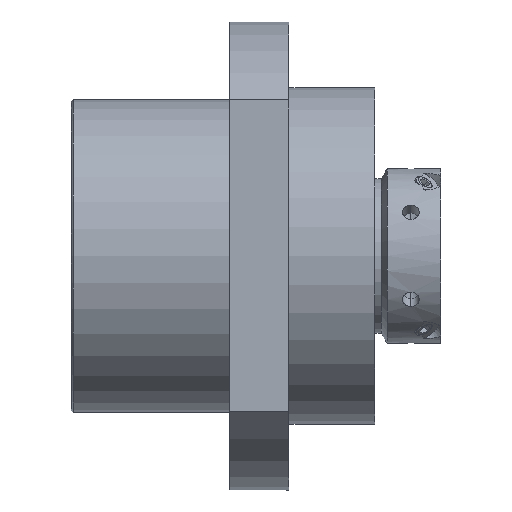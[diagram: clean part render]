
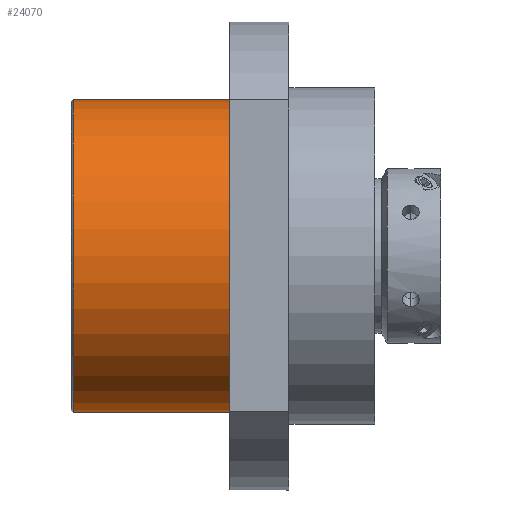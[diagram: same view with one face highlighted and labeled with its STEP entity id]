
A CAD part, top view. The second image highlights one B-rep face of the part: STEP entity #24070.
In plain terms, the highlighted cylindrical face has radius 47.5 mm (diameter 95 mm), a partial arc.
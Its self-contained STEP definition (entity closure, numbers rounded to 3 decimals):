
#478 = DIRECTION ( 'NONE',  ( -1., 0., 0. ) ) ;
#733 = DIRECTION ( 'NONE',  ( -1., 0., 0. ) ) ;
#1466 = VECTOR ( 'NONE', #23988, 1000. ) ;
#3580 = CARTESIAN_POINT ( 'NONE',  ( -2.5, 47.5, 0. ) ) ;
#3621 = EDGE_LOOP ( 'NONE', ( #5083, #22278, #16557, #15505 ) ) ;
#5083 = ORIENTED_EDGE ( 'NONE', *, *, #6036, .T. ) ;
#5600 = DIRECTION ( 'NONE',  ( -1., 0., 0. ) ) ;
#5855 = EDGE_CURVE ( 'NONE', #16535, #9540, #21714, .T. ) ;
#5929 = CARTESIAN_POINT ( 'NONE',  ( 0.5, -47.5, 0. ) ) ;
#6036 = EDGE_CURVE ( 'NONE', #16535, #22702, #18163, .T. ) ;
#7504 = CARTESIAN_POINT ( 'NONE',  ( -2.5, -47.5, 0. ) ) ;
#8103 = VECTOR ( 'NONE', #11550, 1000. ) ;
#8133 = DIRECTION ( 'NONE',  ( 0., -1., 0. ) ) ;
#8244 = AXIS2_PLACEMENT_3D ( 'NONE', #10084, #478, #8133 ) ;
#9540 = VERTEX_POINT ( 'NONE', #5929 ) ;
#10051 = FACE_OUTER_BOUND ( 'NONE', #3621, .T. ) ;
#10084 = CARTESIAN_POINT ( 'NONE',  ( 48., 0., 0. ) ) ;
#10743 = AXIS2_PLACEMENT_3D ( 'NONE', #24922, #733, #14825 ) ;
#10843 = VERTEX_POINT ( 'NONE', #17389 ) ;
#11550 = DIRECTION ( 'NONE',  ( -1., 0., 0. ) ) ;
#13458 = CARTESIAN_POINT ( 'NONE',  ( 48., -47.5, 0. ) ) ;
#13551 = CARTESIAN_POINT ( 'NONE',  ( 48., 47.5, 0. ) ) ;
#14733 = CARTESIAN_POINT ( 'NONE',  ( -2.5, 0., 0. ) ) ;
#14825 = DIRECTION ( 'NONE',  ( 0., -1., 0. ) ) ;
#15107 = CYLINDRICAL_SURFACE ( 'NONE', #15130, 47.5 ) ;
#15130 = AXIS2_PLACEMENT_3D ( 'NONE', #14733, #5600, #24055 ) ;
#15505 = ORIENTED_EDGE ( 'NONE', *, *, #5855, .F. ) ;
#16298 = LINE ( 'NONE', #3580, #1466 ) ;
#16409 = EDGE_CURVE ( 'NONE', #22702, #10843, #16298, .T. ) ;
#16535 = VERTEX_POINT ( 'NONE', #13458 ) ;
#16557 = ORIENTED_EDGE ( 'NONE', *, *, #24835, .F. ) ;
#17389 = CARTESIAN_POINT ( 'NONE',  ( 0.5, 47.5, 0. ) ) ;
#18163 = CIRCLE ( 'NONE', #8244, 47.5 ) ;
#19864 = CIRCLE ( 'NONE', #10743, 47.5 ) ;
#21714 = LINE ( 'NONE', #7504, #8103 ) ;
#22278 = ORIENTED_EDGE ( 'NONE', *, *, #16409, .T. ) ;
#22702 = VERTEX_POINT ( 'NONE', #13551 ) ;
#23988 = DIRECTION ( 'NONE',  ( -1., 0., 0. ) ) ;
#24055 = DIRECTION ( 'NONE',  ( 0., -1., 0. ) ) ;
#24070 = ADVANCED_FACE ( 'NONE', ( #10051 ), #15107, .T. ) ;
#24835 = EDGE_CURVE ( 'NONE', #9540, #10843, #19864, .T. ) ;
#24922 = CARTESIAN_POINT ( 'NONE',  ( 0.5, 0., 0. ) ) ;
